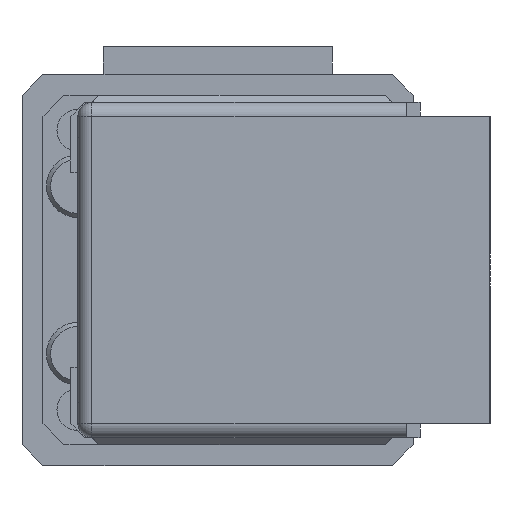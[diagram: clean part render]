
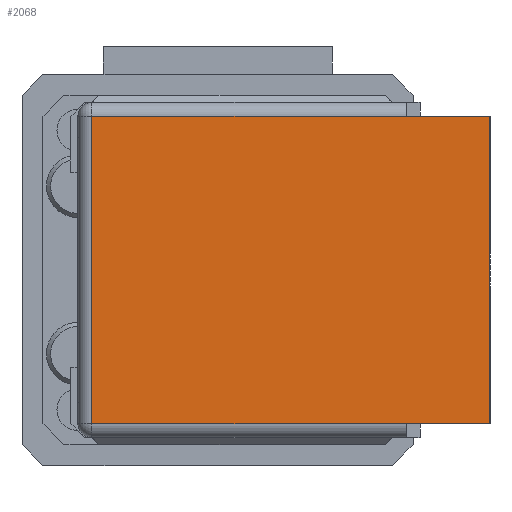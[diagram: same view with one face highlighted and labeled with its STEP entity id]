
A CAD part, left-side view. The second image highlights one B-rep face of the part: STEP entity #2068.
In plain terms, the highlighted planar face has unit normal (-1, 0, 0).
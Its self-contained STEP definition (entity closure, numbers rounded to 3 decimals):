
#96 = VECTOR ( 'NONE', #7411, 1000. ) ;
#267 = LINE ( 'NONE', #4500, #1761 ) ;
#670 = CARTESIAN_POINT ( 'NONE',  ( 0., 6., -11. ) ) ;
#713 = VERTEX_POINT ( 'NONE', #3384 ) ;
#1201 = DIRECTION ( 'NONE',  ( 0., 0., 1. ) ) ;
#1516 = CARTESIAN_POINT ( 'NONE',  ( 0., 6., 11. ) ) ;
#1599 = CARTESIAN_POINT ( 'NONE',  ( 0., 28.5, 11. ) ) ;
#1761 = VECTOR ( 'NONE', #3904, 1000. ) ;
#1779 = LINE ( 'NONE', #4987, #96 ) ;
#2010 = DIRECTION ( 'NONE',  ( 0., 0., -1. ) ) ;
#2068 = ADVANCED_FACE ( 'NONE', ( #7599 ), #6896, .F. ) ;
#2100 = ORIENTED_EDGE ( 'NONE', *, *, #3630, .T. ) ;
#2293 = ORIENTED_EDGE ( 'NONE', *, *, #7921, .T. ) ;
#2426 = LINE ( 'NONE', #1599, #7481 ) ;
#2446 = CARTESIAN_POINT ( 'NONE',  ( 0., 6., -11. ) ) ;
#2517 = LINE ( 'NONE', #4879, #7569 ) ;
#2622 = CARTESIAN_POINT ( 'NONE',  ( 0., 6., 11. ) ) ;
#2633 = EDGE_CURVE ( 'NONE', #713, #6153, #5012, .T. ) ;
#2647 = EDGE_CURVE ( 'NONE', #6153, #3891, #1779, .T. ) ;
#2882 = VERTEX_POINT ( 'NONE', #4582 ) ;
#3070 = CARTESIAN_POINT ( 'NONE',  ( 0., 0., -11. ) ) ;
#3384 = CARTESIAN_POINT ( 'NONE',  ( 0., 28.5, -11. ) ) ;
#3630 = EDGE_CURVE ( 'NONE', #3752, #713, #2426, .T. ) ;
#3752 = VERTEX_POINT ( 'NONE', #6599 ) ;
#3759 = DIRECTION ( 'NONE',  ( 0., -1., 0. ) ) ;
#3765 = CARTESIAN_POINT ( 'NONE',  ( 0., 6., 11. ) ) ;
#3891 = VERTEX_POINT ( 'NONE', #3070 ) ;
#3904 = DIRECTION ( 'NONE',  ( 0., -1., 0. ) ) ;
#4471 = LINE ( 'NONE', #3765, #7525 ) ;
#4481 = ORIENTED_EDGE ( 'NONE', *, *, #5569, .T. ) ;
#4500 = CARTESIAN_POINT ( 'NONE',  ( 0., 6., 11. ) ) ;
#4582 = CARTESIAN_POINT ( 'NONE',  ( 0., 0., 11. ) ) ;
#4879 = CARTESIAN_POINT ( 'NONE',  ( 0., 0., 11. ) ) ;
#4927 = ORIENTED_EDGE ( 'NONE', *, *, #7587, .F. ) ;
#4939 = AXIS2_PLACEMENT_3D ( 'NONE', #2622, #6273, #2010 ) ;
#4966 = DIRECTION ( 'NONE',  ( 0., 1., 0. ) ) ;
#4987 = CARTESIAN_POINT ( 'NONE',  ( 0., 6., -11. ) ) ;
#5012 = LINE ( 'NONE', #670, #7225 ) ;
#5259 = DIRECTION ( 'NONE',  ( 0., 0., -1. ) ) ;
#5569 = EDGE_CURVE ( 'NONE', #7060, #3752, #4471, .T. ) ;
#6153 = VERTEX_POINT ( 'NONE', #2446 ) ;
#6273 = DIRECTION ( 'NONE',  ( 1., 0., 0. ) ) ;
#6599 = CARTESIAN_POINT ( 'NONE',  ( 0., 28.5, 11. ) ) ;
#6896 = PLANE ( 'NONE',  #4939 ) ;
#7060 = VERTEX_POINT ( 'NONE', #1516 ) ;
#7225 = VECTOR ( 'NONE', #3759, 1000. ) ;
#7411 = DIRECTION ( 'NONE',  ( 0., -1., 0. ) ) ;
#7481 = VECTOR ( 'NONE', #5259, 1000. ) ;
#7525 = VECTOR ( 'NONE', #4966, 1000. ) ;
#7569 = VECTOR ( 'NONE', #1201, 1000. ) ;
#7587 = EDGE_CURVE ( 'NONE', #7060, #2882, #267, .T. ) ;
#7599 = FACE_OUTER_BOUND ( 'NONE', #7955, .T. ) ;
#7917 = ORIENTED_EDGE ( 'NONE', *, *, #2647, .T. ) ;
#7921 = EDGE_CURVE ( 'NONE', #3891, #2882, #2517, .T. ) ;
#7955 = EDGE_LOOP ( 'NONE', ( #2100, #7964, #7917, #2293, #4927, #4481 ) ) ;
#7964 = ORIENTED_EDGE ( 'NONE', *, *, #2633, .T. ) ;
